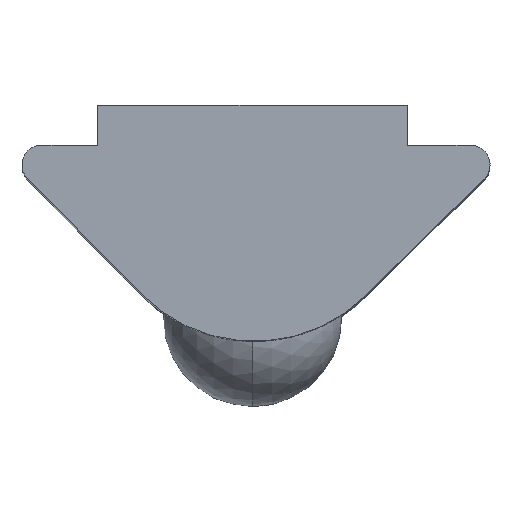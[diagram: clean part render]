
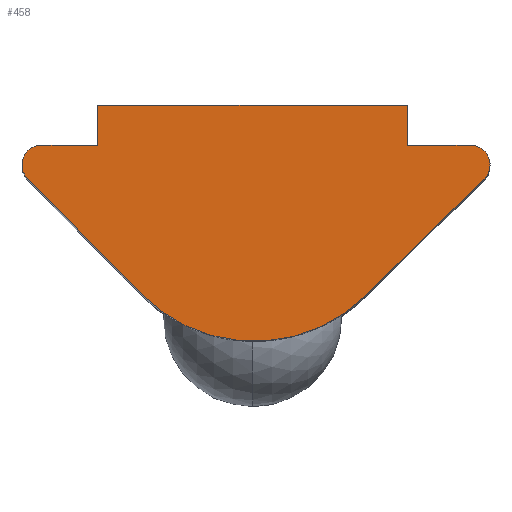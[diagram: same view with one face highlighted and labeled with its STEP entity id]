
A CAD part, top view. The second image highlights one B-rep face of the part: STEP entity #458.
In plain terms, the highlighted planar face has unit normal (0, 0, 1).
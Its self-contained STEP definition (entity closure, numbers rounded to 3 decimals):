
#24 = CARTESIAN_POINT ( 'NONE',  ( 3.9, 6.6, 11. ) ) ;
#33 = VECTOR ( 'NONE', #1845, 1000. ) ;
#71 = VERTEX_POINT ( 'NONE', #2328 ) ;
#117 = PLANE ( 'NONE',  #680 ) ;
#146 = EDGE_CURVE ( 'NONE', #2113, #1362, #3055, .T. ) ;
#159 = LINE ( 'NONE', #2907, #1444 ) ;
#197 = ORIENTED_EDGE ( 'NONE', *, *, #916, .F. ) ;
#199 = EDGE_CURVE ( 'NONE', #1453, #1693, #1443, .T. ) ;
#221 = CARTESIAN_POINT ( 'NONE',  ( -5.662, 5.749, 11. ) ) ;
#243 = DIRECTION ( 'NONE',  ( 0., 0., 1. ) ) ;
#249 = AXIS2_PLACEMENT_3D ( 'NONE', #2346, #1713, #1398 ) ;
#269 = AXIS2_PLACEMENT_3D ( 'NONE', #1346, #1031, #725 ) ;
#305 = CARTESIAN_POINT ( 'NONE',  ( 3.9, 6.6, 11. ) ) ;
#336 = LINE ( 'NONE', #24, #1838 ) ;
#458 = ADVANCED_FACE ( 'NONE', ( #637 ), #117, .F. ) ;
#505 = VERTEX_POINT ( 'NONE', #895 ) ;
#525 = ORIENTED_EDGE ( 'NONE', *, *, #539, .T. ) ;
#539 = EDGE_CURVE ( 'NONE', #71, #1453, #2019, .T. ) ;
#581 = AXIS2_PLACEMENT_3D ( 'NONE', #2677, #2035, #1722 ) ;
#637 = FACE_OUTER_BOUND ( 'NONE', #884, .T. ) ;
#672 = VECTOR ( 'NONE', #2421, 1000. ) ;
#680 = AXIS2_PLACEMENT_3D ( 'NONE', #2862, #2540, #2223 ) ;
#682 = AXIS2_PLACEMENT_3D ( 'NONE', #2429, #243, #2993 ) ;
#718 = ORIENTED_EDGE ( 'NONE', *, *, #753, .T. ) ;
#720 = EDGE_CURVE ( 'NONE', #1362, #505, #1210, .T. ) ;
#725 = DIRECTION ( 'NONE',  ( -1., 0., 0. ) ) ;
#737 = VECTOR ( 'NONE', #1391, 1000. ) ;
#753 = EDGE_CURVE ( 'NONE', #1360, #71, #1682, .T. ) ;
#884 = EDGE_LOOP ( 'NONE', ( #525, #2834, #1436, #1826, #2006, #197, #1232, #2649, #1916, #1266, #718 ) ) ;
#895 = CARTESIAN_POINT ( 'NONE',  ( -5.806, 6.1, 11. ) ) ;
#916 = EDGE_CURVE ( 'NONE', #2113, #1173, #1711, .T. ) ;
#949 = EDGE_CURVE ( 'NONE', #1173, #2231, #159, .T. ) ;
#1031 = DIRECTION ( 'NONE',  ( 0., 0., 1. ) ) ;
#1083 = DIRECTION ( 'NONE',  ( 0., 1., 0. ) ) ;
#1173 = VERTEX_POINT ( 'NONE', #1964 ) ;
#1182 = VECTOR ( 'NONE', #1083, 1000. ) ;
#1210 = CIRCLE ( 'NONE', #682, 0.5 ) ;
#1227 = CARTESIAN_POINT ( 'NONE',  ( 5.832, 5.744, 11. ) ) ;
#1232 = ORIENTED_EDGE ( 'NONE', *, *, #146, .T. ) ;
#1254 = EDGE_CURVE ( 'NONE', #3002, #2231, #336, .T. ) ;
#1266 = ORIENTED_EDGE ( 'NONE', *, *, #3013, .T. ) ;
#1301 = VECTOR ( 'NONE', #2422, 1000. ) ;
#1346 = CARTESIAN_POINT ( 'NONE',  ( -5.306, 6.1, 11. ) ) ;
#1360 = VERTEX_POINT ( 'NONE', #2794 ) ;
#1362 = VERTEX_POINT ( 'NONE', #2470 ) ;
#1391 = DIRECTION ( 'NONE',  ( 0.712, 0.702, 0. ) ) ;
#1396 = CARTESIAN_POINT ( 'NONE',  ( -3.9, 6.6, 11. ) ) ;
#1398 = DIRECTION ( 'NONE',  ( -1., 0., 0. ) ) ;
#1436 = ORIENTED_EDGE ( 'NONE', *, *, #2337, .T. ) ;
#1438 = CARTESIAN_POINT ( 'NONE',  ( 3.9, 7.6, 11. ) ) ;
#1443 = CIRCLE ( 'NONE', #249, 0.5 ) ;
#1444 = VECTOR ( 'NONE', #2585, 1000. ) ;
#1453 = VERTEX_POINT ( 'NONE', #1227 ) ;
#1682 = CIRCLE ( 'NONE', #581, 4. ) ;
#1693 = VERTEX_POINT ( 'NONE', #2730 ) ;
#1707 = CARTESIAN_POINT ( 'NONE',  ( 0., 0., 11. ) ) ;
#1711 = LINE ( 'NONE', #1396, #1182 ) ;
#1713 = DIRECTION ( 'NONE',  ( 0., 0., 1. ) ) ;
#1722 = DIRECTION ( 'NONE',  ( -1., 0., 0. ) ) ;
#1826 = ORIENTED_EDGE ( 'NONE', *, *, #1254, .T. ) ;
#1838 = VECTOR ( 'NONE', #2772, 1000. ) ;
#1845 = DIRECTION ( 'NONE',  ( -1., 0., 0. ) ) ;
#1900 = CARTESIAN_POINT ( 'NONE',  ( -3.9, 6.6, 11. ) ) ;
#1916 = ORIENTED_EDGE ( 'NONE', *, *, #1935, .T. ) ;
#1935 = EDGE_CURVE ( 'NONE', #505, #1986, #2274, .T. ) ;
#1964 = CARTESIAN_POINT ( 'NONE',  ( -3.9, 7.6, 11. ) ) ;
#1986 = VERTEX_POINT ( 'NONE', #221 ) ;
#2006 = ORIENTED_EDGE ( 'NONE', *, *, #949, .F. ) ;
#2019 = LINE ( 'NONE', #1707, #737 ) ;
#2035 = DIRECTION ( 'NONE',  ( 0., 0., 1. ) ) ;
#2113 = VERTEX_POINT ( 'NONE', #1900 ) ;
#2159 = CARTESIAN_POINT ( 'NONE',  ( 6.702, 6.6, 11. ) ) ;
#2223 = DIRECTION ( 'NONE',  ( -1., 0., 0. ) ) ;
#2231 = VERTEX_POINT ( 'NONE', #1438 ) ;
#2274 = CIRCLE ( 'NONE', #269, 0.5 ) ;
#2328 = CARTESIAN_POINT ( 'NONE',  ( 2.85, 2.807, 11. ) ) ;
#2337 = EDGE_CURVE ( 'NONE', #1693, #3002, #2481, .T. ) ;
#2346 = CARTESIAN_POINT ( 'NONE',  ( 5.481, 6.1, 11. ) ) ;
#2421 = DIRECTION ( 'NONE',  ( 0.702, -0.712, 0. ) ) ;
#2422 = DIRECTION ( 'NONE',  ( -1., 0., 0. ) ) ;
#2429 = CARTESIAN_POINT ( 'NONE',  ( -5.306, 6.1, 11. ) ) ;
#2470 = CARTESIAN_POINT ( 'NONE',  ( -5.306, 6.6, 11. ) ) ;
#2481 = LINE ( 'NONE', #2159, #33 ) ;
#2540 = DIRECTION ( 'NONE',  ( 0., 0., -1. ) ) ;
#2585 = DIRECTION ( 'NONE',  ( 1., 0., 0. ) ) ;
#2649 = ORIENTED_EDGE ( 'NONE', *, *, #720, .T. ) ;
#2677 = CARTESIAN_POINT ( 'NONE',  ( 0.043, 5.657, 11. ) ) ;
#2730 = CARTESIAN_POINT ( 'NONE',  ( 5.481, 6.6, 11. ) ) ;
#2743 = CARTESIAN_POINT ( 'NONE',  ( -6.5, 6.6, 11. ) ) ;
#2744 = CARTESIAN_POINT ( 'NONE',  ( -3.9, 6.6, 11. ) ) ;
#2772 = DIRECTION ( 'NONE',  ( 0., 1., 0. ) ) ;
#2794 = CARTESIAN_POINT ( 'NONE',  ( -2.807, 2.85, 11. ) ) ;
#2834 = ORIENTED_EDGE ( 'NONE', *, *, #199, .T. ) ;
#2862 = CARTESIAN_POINT ( 'NONE',  ( 0., 0., 11. ) ) ;
#2907 = CARTESIAN_POINT ( 'NONE',  ( -3.9, 7.6, 11. ) ) ;
#2993 = DIRECTION ( 'NONE',  ( -1., 0., 0. ) ) ;
#3002 = VERTEX_POINT ( 'NONE', #305 ) ;
#3013 = EDGE_CURVE ( 'NONE', #1986, #1360, #3054, .T. ) ;
#3054 = LINE ( 'NONE', #2743, #672 ) ;
#3055 = LINE ( 'NONE', #2744, #1301 ) ;
